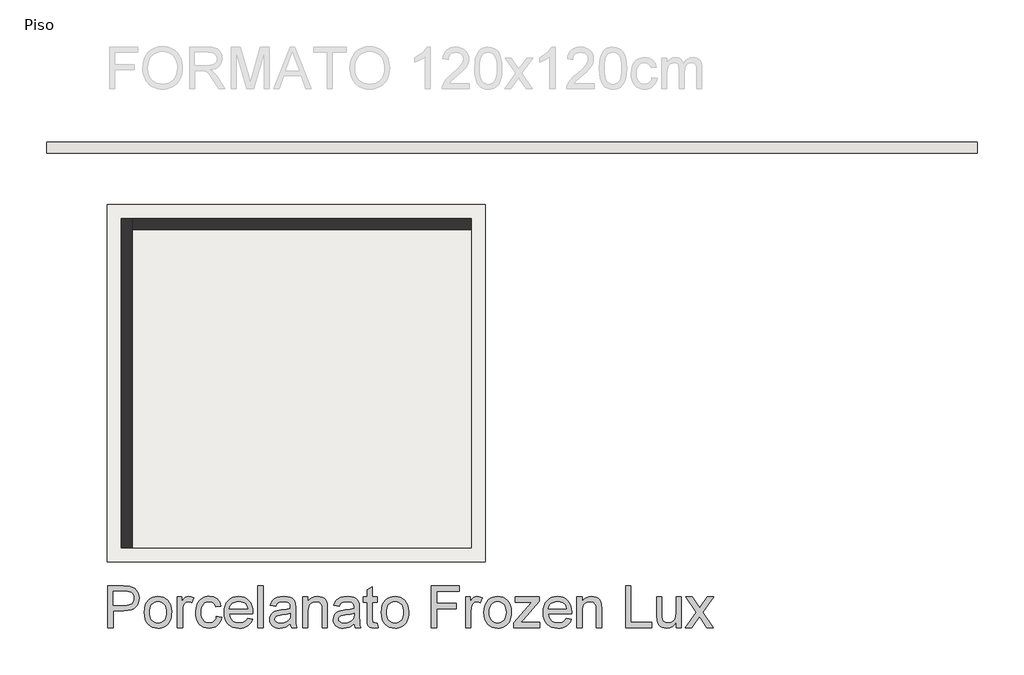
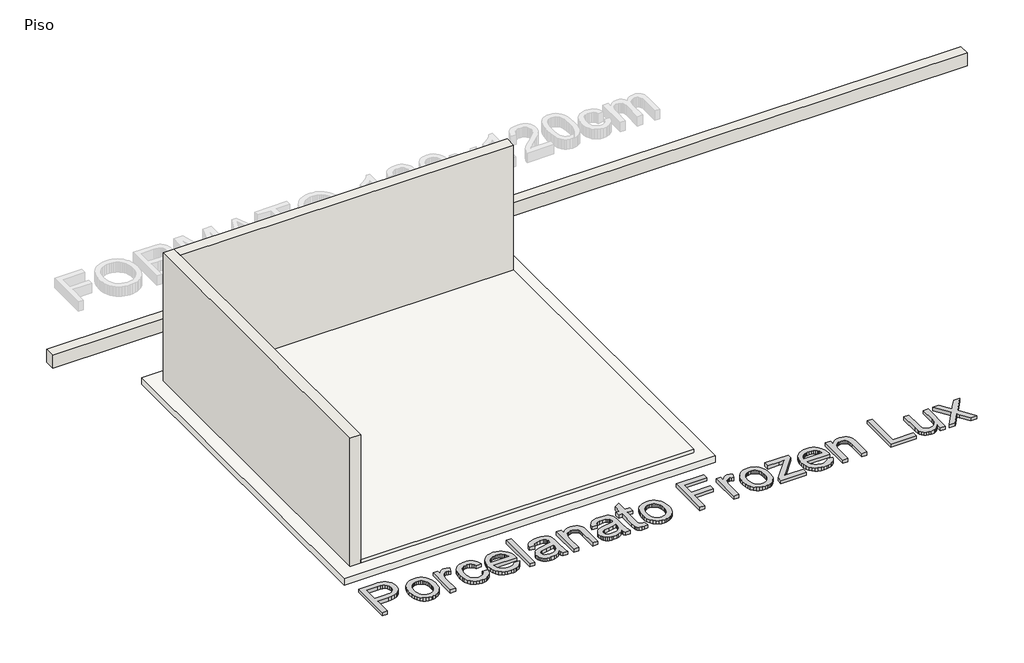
# One storey, part 1 of 2: 3 walls, 2 slabs, 1 proxy.
"""IFC4 building model written with IfcOpenShell, lengths in millimetres."""

from ifc_helpers import new_model, si_unit, frame, origin, origin_with_axes, place, context, project, spatial, polyline, outline, extrude, faceted_brep, element, save

model = new_model("IFC4")

# Units and contexts
model_context = context("Model", 3, world=origin())
ifc_project = project(units=[si_unit("LENGTHUNIT", "METRE", prefix="MILLI")], contexts=[model_context])

# Site, building, storey
site = spatial("IfcSite", under=ifc_project)
building = spatial("IfcBuilding", under=site)
storey = spatial("IfcBuildingStorey", under=building, Name="Piso", Elevation=0.0)

# Proxy
placement = place(None, origin())
element("IfcBuildingElementProxy", 1, Name="600mm Arial", ObjectType="600mm Arial", at=placement, inside=storey, context=model_context, shape_type="SweptSolid", body=[
    extrude(outline(polyline([(92577.3427351, -5117.7397351), (92577.3427351, -4515.0018742), (92800.7206826, -4515.0018742), (92852.7391967, -4516.436614), (92890.778195, -4520.7408334), (92930.9325148, -4531.4645935), (92963.986712, -4548.9205942), (92990.6029744, -4573.8997817), (93011.4434894, -4607.1931022), (93024.9079704, -4646.4645052), (93029.3961308, -4689.37794), (93026.3657028, -4726.3776716), (93017.274419, -4760.4159532), (93002.1222793, -4791.4927848), (92980.9092838, -4819.6081662), (92951.7868254, -4842.9134906), (92912.906297, -4859.5601509), (92864.2676987, -4869.5481471), (92805.8710305, -4872.8774791), (92652.6849677, -4872.8774791), (92652.6849677, -5117.7397351), (92577.3427351, -5117.7397351)]), holes=[polyline([(92652.6849677, -4797.5352465), (92810.2856144, -4797.5352465), (92846.521991, -4795.8062012), (92877.0929848, -4790.619065), (92901.9985958, -4781.9738381), (92921.2388242, -4769.8705205), (92935.595419, -4754.6310088), (92945.8501297, -4736.5771999), (92952.002956, -4715.7090938), (92954.0538981, -4692.0266903), (92949.2162499, -4658.1815468), (92934.7033052, -4629.6339039), (92912.3176858, -4608.1495954), (92883.8620135, -4595.4944548), (92854.7993358, -4591.6316938), (92808.5197809, -4590.3441069), (92652.6849677, -4590.3441069), (92652.6849677, -4797.5352465)])]), origin_with_axes(), (0.0, 0.0, 1.0), 50.0),
    extrude(outline(polyline([(93104.7383634, -4896.4219268), (93108.8126565, -4839.0967149), (93121.0355358, -4789.69936), (93141.4070012, -4748.2298621), (93169.9270529, -4714.6882212), (93198.6402426, -4693.249898), (93230.3332765, -4677.9368099), (93265.0061546, -4668.7489571), (93302.6588768, -4665.6863395), (93344.2249437, -4669.4157432), (93381.808688, -4680.6039544), (93415.4101098, -4699.250973), (93445.0292089, -4725.3567991), (93469.2036545, -4758.0385158), (93486.4711157, -4796.4132064), (93496.8315924, -4840.4808709), (93500.2850846, -4890.2415093), (93498.7583743, -4930.570573), (93494.1782435, -4966.3562941), (93486.5446921, -4997.5986726), (93475.8577201, -5024.2977084), (93462.2506848, -5047.3593109), (93445.8569434, -5067.6893897), (93426.6764959, -5085.2879446), (93404.7093422, -5100.1549758), (93380.8108081, -5111.9685863), (93355.8362192, -5120.4068796), (93329.7855754, -5125.4698556), (93302.6588768, -5127.1575142), (93260.4858046, -5123.4419061), (93222.5525723, -5112.2950816), (93188.8591801, -5093.7170409), (93159.4056279, -5067.7077838), (93135.4886996, -5034.7087688), (93118.4051795, -4995.1614543), (93108.1550674, -4949.0658403), (93104.7383634, -4896.4219268)]), holes=[polyline([(93180.080596, -4896.274774), (93182.2602968, -4932.8192517), (93188.7993993, -4964.4617018), (93199.6979034, -4991.2021244), (93214.9558091, -5013.0405193), (93233.5154558, -5030.0044778), (93254.3191826, -5042.121591), (93277.3669896, -5049.391859), (93302.6588768, -5051.8152816), (93327.8220052, -5049.3780634), (93350.7778417, -5042.0664087), (93371.5263863, -5029.8803176), (93390.0676388, -5012.8197901), (93405.3255446, -4990.7652645), (93416.2240487, -4963.5971792), (93422.7631512, -4931.3155341), (93424.942852, -4893.9203293), (93422.7493556, -4858.5346799), (93416.1688664, -4827.7199642), (93405.2013844, -4801.4761824), (93389.8469096, -4779.8033344), (93371.2366792, -4762.8393759), (93350.5019303, -4750.7222626), (93327.6426628, -4743.4519947), (93302.6588768, -4741.0285721), (93277.3669896, -4743.4427977), (93254.3191826, -4750.6854744), (93233.5154558, -4762.7566024), (93214.9558091, -4779.6561816), (93199.6979034, -4801.4301972), (93188.7993993, -4828.1246344), (93182.2602968, -4859.7394934), (93180.080596, -4896.274774)])]), origin_with_axes(), (0.0, 0.0, 1.0), 50.0),
    extrude(outline(polyline([(93585.0450963, -5117.7397351), (93585.0450963, -4675.1041185), (93650.9695498, -4675.1041185), (93650.9695498, -4740.5871137), (93675.3233379, -4702.6216918), (93697.7641396, -4680.2544665), (93720.2785177, -4669.3283712), (93744.853035, -4665.6863395), (93782.3769985, -4671.498875), (93820.4895732, -4688.9364816), (93795.3264447, -4756.4796159), (93768.8389411, -4744.891333), (93742.3514374, -4741.0285721), (93719.8554534, -4744.7441802), (93699.7507024, -4755.8910047), (93683.5087123, -4773.6229168), (93672.6010111, -4797.0937881), (93663.4407494, -4839.1794884), (93660.3873289, -4885.0911614), (93660.3873289, -5117.7397351), (93585.0450963, -5117.7397351)])), origin_with_axes(), (0.0, 0.0, 1.0), 50.0),
    extrude(outline(polyline([(94150.1118409, -4957.6374908), (94225.4540735, -4967.0552699), (94217.259502, -5002.6064662), (94204.4480116, -5034.0649753), (94187.019602, -5061.4307972), (94164.9742735, -5084.703932), (94139.2409279, -5103.2773742), (94110.7484674, -5116.5441187), (94079.4968919, -5124.5041653), (94045.4862014, -5127.1575142), (94003.2303558, -5123.4557016), (93965.3431088, -5112.3502639), (93931.8244605, -5093.841201), (93902.6744109, -5067.928513), (93879.0793794, -5035.0996434), (93862.2257855, -4995.842036), (93852.1136292, -4950.1556908), (93848.7429104, -4898.0406076), (93854.5002636, -4830.994114), (93861.6969552, -4800.8231919), (93871.7723233, -4772.8871529), (93884.7953459, -4747.747017), (93900.8350009, -4725.9638044), (93919.8912883, -4707.5375149), (93941.964208, -4692.4681487), (93966.0558802, -4680.7511072), (93991.1684249, -4672.3817918), (94017.3018421, -4667.3602025), (94044.4561319, -4665.6863395), (94077.8828096, -4667.9856019), (94108.1181111, -4674.8833893), (94135.1620363, -4686.3797017), (94159.0145852, -4702.474539), (94179.2710875, -4722.8000192), (94195.5268732, -4746.9882604), (94207.7819421, -4775.0392625), (94216.0362944, -4806.9530256), (94140.6940618, -4816.3708047), (94127.0272457, -4783.5005484), (94105.7452722, -4759.9377066), (94078.0253639, -4745.7558557), (94045.044743, -4741.0285721), (94019.4447547, -4743.3554257), (93996.355561, -4750.3359866), (93975.7771619, -4761.9702547), (93957.7095574, -4778.25823), (93942.9988761, -4799.5769916), (93932.4912466, -4826.3036186), (93926.1866689, -4858.4381108), (93924.085143, -4895.9804684), (93926.1406837, -4934.0884446), (93932.3073056, -4966.5954174), (93942.5850089, -4993.5013868), (93956.9737934, -5014.8063529), (93974.6827129, -5030.9977592), (93994.9208212, -5042.5630494), (94017.6881182, -5049.5022236), (94042.9846039, -5051.8152816), (94081.9984895, -5046.0395343), (94098.8704775, -5038.8198501), (94113.9858289, -5028.7122923), (94126.9214796, -5015.6064962), (94137.2543651, -4999.3920973), (94144.9844856, -4980.0690955), (94150.1118409, -4957.6374908)])), origin_with_axes(), (0.0, 0.0, 1.0), 50.0),
    extrude(outline(polyline([(94601.2823198, -4985.8908281), (94675.1530244, -4995.3086071), (94663.8268575, -5024.8955166), (94648.536762, -5050.969153), (94629.2827381, -5073.5295164), (94606.0647857, -5092.5766067), (94579.1220281, -5107.7057537), (94548.6935885, -5118.5122873), (94514.7794671, -5124.9962075), (94477.3796638, -5127.1575142), (94430.6310592, -5123.4281105), (94388.9776203, -5112.2398993), (94352.4193471, -5093.5928807), (94320.9562394, -5067.4870546), (94295.6551552, -5034.648988), (94277.5829522, -4995.8052478), (94266.7396304, -4950.9558341), (94263.1251898, -4900.1007468), (94266.7764186, -4847.5212126), (94277.730105, -4801.1772783), (94295.986249, -4761.0689438), (94321.5448506, -4727.1962091), (94352.9251848, -4700.2856411), (94388.6465265, -4681.0638069), (94428.7088758, -4669.5307063), (94473.1122326, -4665.6863395), (94516.0854482, -4669.5215093), (94554.9475825, -4681.0270187), (94589.6986354, -4700.2028677), (94620.3386071, -4727.0490563), (94645.3499842, -4760.8482146), (94663.2152536, -4800.8829727), (94673.9344153, -4847.1533306), (94677.5074692, -4899.6592884), (94677.0660108, -4919.9663745), (94338.4674224, -4919.9663745), (94342.8314226, -4950.0315306), (94351.5088391, -4976.3626844), (94364.4996721, -4998.9598359), (94381.8039214, -5017.8229852), (94402.465094, -5032.6946149), (94425.5266966, -5043.3172075), (94450.9887291, -5049.6907631), (94478.8511918, -5051.8152816), (94518.9503292, -5047.8789443), (94552.7218964, -5036.0699322), (94580.1658932, -5015.6524815), (94601.2823198, -4985.8908281)]), holes=[polyline([(94338.4674224, -4844.6241419), (94602.1652365, -4844.6241419), (94591.9749053, -4804.81931), (94583.2101167, -4789.1659311), (94571.9989129, -4776.3452436), (94551.4527035, -4760.8941998), (94528.0738027, -4749.85774), (94501.8622106, -4743.235864), (94472.817927, -4741.0285721), (94446.3258249, -4742.7898071), (94422.0318176, -4748.0735123), (94399.9359053, -4756.8796875), (94380.0380879, -4769.2083329), (94363.3408438, -4784.4892313), (94350.8466515, -4802.1521656), (94342.5555111, -4822.1971358), (94338.4674224, -4844.6241419)])]), origin_with_axes(), (0.0, 0.0, 1.0), 50.0),
    extrude(outline(polyline([(94752.8497018, -5117.7397351), (94752.8497018, -4515.0018742), (94828.1919344, -4515.0018742), (94828.1919344, -5117.7397351), (94752.8497018, -5117.7397351)])), origin_with_axes(), (0.0, 0.0, 1.0), 50.0),
    extrude(outline(polyline([(95223.7386556, -5061.2330607), (95187.7414024, -5092.0983601), (95150.6772913, -5112.2950816), (95111.700194, -5123.4419061), (95069.9639816, -5127.1575142), (95036.4177422, -5124.9226311), (95007.0009781, -5118.2179817), (94981.7136895, -5107.0435661), (94960.5558762, -5091.3993843), (94943.8494351, -5072.2787176), (94931.9162629, -5050.6748474), (94924.7563596, -5026.5877738), (94922.3697251, -5000.0174967), (94925.9749687, -4968.7843153), (94936.7906994, -4940.4206135), (94953.4741478, -4916.1404018), (94974.6825449, -4897.1576908), (94999.60655, -4882.810293), (95027.436823, -4872.4360208), (95092.6255125, -4861.1052553), (95169.6600023, -4849.1858787), (95223.2971972, -4835.2063628), (95223.7386556, -4818.4309439), (95218.5515195, -4784.8065295), (95212.0675993, -4772.353724), (95202.9901111, -4762.8071862), (95187.299944, -4753.2790425), (95168.1884743, -4746.4732256), (95119.7016274, -4741.0285721), (95074.8200239, -4744.6522097), (95043.476478, -4755.5231227), (95022.102534, -4775.6278737), (95007.1297368, -4806.9530256), (94931.7875042, -4797.5352465), (94944.8657091, -4756.3324631), (94964.381849, -4723.9588475), (94992.1569396, -4699.2003892), (95030.0119969, -4680.8430777), (95076.309946, -4669.475524), (95129.413712, -4665.6863395), (95180.3469743, -4669.0340656), (95220.7220232, -4679.0772441), (95251.1642583, -4694.1788), (95272.299079, -4712.7016584), (95286.315383, -4735.6023126), (95295.4020683, -4763.8372558), (95299.0808882, -4829.7617093), (95299.0808882, -4923.4980417), (95302.906861, -5054.3904556), (95308.5722437, -5086.745677), (95317.9164464, -5117.7397351), (95242.5742137, -5117.7397351), (95230.5076843, -5091.5465371), (95223.7386556, -5061.2330607)]), holes=[polyline([(95223.7386556, -4910.5485955), (95173.1180931, -4923.0933715), (95102.1904444, -4933.6515848), (95037.3696368, -4945.865267), (95020.5022474, -4954.2161883), (95008.0126536, -4965.7308947), (95000.2871317, -4979.5264695), (94997.7119578, -4994.7199959), (95003.3221582, -5017.1240095), (95020.1527595, -5035.481321), (95047.8358796, -5047.7317915), (95086.0036366, -5051.8152816), (95126.4706561, -5047.3087272), (95162.228786, -5033.7890638), (95191.2178872, -5013.8682538), (95211.3778206, -4990.1582592), (95220.317353, -4965.7308947), (95223.2971972, -4931.8857512), (95223.7386556, -4910.5485955)])]), origin_with_axes(), (0.0, 0.0, 1.0), 50.0),
    extrude(outline(polyline([(95402.676458, -5117.7397351), (95402.676458, -4675.1041185), (95478.0186907, -4675.1041185), (95478.0186907, -4736.9082937), (95504.1934946, -4705.7486887), (95535.6290111, -4683.491828), (95572.3252401, -4670.1377116), (95614.2821817, -4665.6863395), (95651.4198691, -4669.2731889), (95685.4305595, -4680.0337373), (95713.7942614, -4696.6252153), (95733.9909829, -4717.7048536), (95747.6945872, -4743.2174699), (95756.5789374, -4773.1078821), (95760.552063, -4845.9485171), (95760.552063, -5117.7397351), (95685.2098303, -5117.7397351), (95685.2098303, -4856.1020602), (95683.0393266, -4817.1433569), (95676.5278153, -4789.4418426), (95664.5164681, -4769.594609), (95645.8464569, -4754.1987475), (95621.9157331, -4744.3211159), (95594.1222483, -4741.0285721), (95571.2445868, -4742.8771791), (95549.994803, -4748.4230002), (95530.3728971, -4757.6660353), (95512.378869, -4770.6062845), (95497.346291, -4788.7152757), (95486.6087352, -4813.4645369), (95480.1662018, -4844.8540682), (95478.0186907, -4882.8838694), (95478.0186907, -5117.7397351), (95402.676458, -5117.7397351)])), origin_with_axes(), (0.0, 0.0, 1.0), 50.0),
    extrude(outline(polyline([(96146.6810051, -5061.2330607), (96110.6837519, -5092.0983601), (96073.6196408, -5112.2950816), (96034.6425435, -5123.4419061), (95992.9063311, -5127.1575142), (95959.3600917, -5124.9226311), (95929.9433276, -5118.2179817), (95904.656039, -5107.0435661), (95883.4982257, -5091.3993843), (95866.7917846, -5072.2787176), (95854.8586124, -5050.6748474), (95847.6987091, -5026.5877738), (95845.3120746, -5000.0174967), (95848.9173182, -4968.7843153), (95859.7330489, -4940.4206135), (95876.4164973, -4916.1404018), (95897.6248944, -4897.1576908), (95922.5488995, -4882.810293), (95950.3791725, -4872.4360208), (96015.567862, -4861.1052553), (96092.6023518, -4849.1858787), (96146.2395467, -4835.2063628), (96146.6810051, -4818.4309439), (96141.493869, -4784.8065295), (96135.0099488, -4772.353724), (96125.9324606, -4762.8071862), (96110.2422935, -4753.2790425), (96091.1308238, -4746.4732256), (96042.6439769, -4741.0285721), (95997.7623734, -4744.6522097), (95966.4188275, -4755.5231227), (95945.0448835, -4775.6278737), (95930.0720863, -4806.9530256), (95854.7298537, -4797.5352465), (95867.8080586, -4756.3324631), (95887.3241985, -4723.9588475), (95915.0992891, -4699.2003892), (95952.9543464, -4680.8430777), (95999.2522955, -4669.475524), (96052.3560615, -4665.6863395), (96103.2893238, -4669.0340656), (96143.6643727, -4679.0772441), (96174.1066078, -4694.1788), (96195.2414285, -4712.7016584), (96209.2577325, -4735.6023126), (96218.3444178, -4763.8372558), (96222.0232377, -4829.7617093), (96222.0232377, -4923.4980417), (96225.8492105, -5054.3904556), (96231.5145932, -5086.745677), (96240.8587959, -5117.7397351), (96165.5165632, -5117.7397351), (96153.4500338, -5091.5465371), (96146.6810051, -5061.2330607)]), holes=[polyline([(96146.6810051, -4910.5485955), (96096.0604426, -4923.0933715), (96025.1327939, -4933.6515848), (95960.3119863, -4945.865267), (95943.4445969, -4954.2161883), (95930.9550031, -4965.7308947), (95923.2294812, -4979.5264695), (95920.6543073, -4994.7199959), (95926.2645077, -5017.1240095), (95943.095109, -5035.481321), (95970.7782291, -5047.7317915), (96008.9459861, -5051.8152816), (96049.4130056, -5047.3087272), (96085.1711355, -5033.7890638), (96114.1602367, -5013.8682538), (96134.3201701, -4990.1582592), (96143.2597025, -4965.7308947), (96146.2395467, -4931.8857512), (96146.6810051, -4910.5485955)])]), origin_with_axes(), (0.0, 0.0, 1.0), 50.0),
    extrude(outline(polyline([(96485.7210518, -5054.9054904), (96495.1388309, -5119.9470271), (96438.7793093, -5127.1575142), (96402.6165091, -5124.0305173), (96375.6507589, -5114.6495264), (96356.5944715, -5100.191764), (96344.1600601, -5081.8344524), (96337.317455, -5050.3069654), (96335.0365866, -4996.3386767), (96335.0365866, -4750.4463512), (96278.5299122, -4750.4463512), (96278.5299122, -4675.1041185), (96335.0365866, -4675.1041185), (96335.0365866, -4567.5354232), (96410.3788192, -4523.2424309), (96410.3788192, -4675.1041185), (96485.7210518, -4675.1041185), (96485.7210518, -4750.4463512), (96410.3788192, -4750.4463512), (96410.3788192, -4994.1313848), (96414.3519448, -5032.9797234), (96427.2278146, -5046.7385101), (96438.0987276, -5050.5460887), (96452.9059779, -5051.8152816), (96485.7210518, -5054.9054904)])), origin_with_axes(), (0.0, 0.0, 1.0), 50.0),
    extrude(outline(polyline([(96542.2277263, -4896.4219268), (96546.3020194, -4839.0967149), (96558.5248987, -4789.69936), (96578.8963642, -4748.2298621), (96607.4164159, -4714.6882212), (96636.1296056, -4693.249898), (96667.8226395, -4677.9368099), (96702.4955175, -4668.7489571), (96740.1482397, -4665.6863395), (96781.7143066, -4669.4157432), (96819.298051, -4680.6039544), (96852.8994727, -4699.250973), (96882.5185718, -4725.3567991), (96906.6930175, -4758.0385158), (96923.9604786, -4796.4132064), (96934.3209553, -4840.4808709), (96937.7744475, -4890.2415093), (96936.2477372, -4930.570573), (96931.6676064, -4966.3562941), (96924.034055, -4997.5986726), (96913.347083, -5024.2977084), (96899.7400477, -5047.3593109), (96883.3463063, -5067.6893897), (96864.1658588, -5085.2879446), (96842.1987052, -5100.1549758), (96818.3001711, -5111.9685863), (96793.3255821, -5120.4068796), (96767.2749383, -5125.4698556), (96740.1482397, -5127.1575142), (96697.9751675, -5123.4419061), (96660.0419353, -5112.2950816), (96626.348543, -5093.7170409), (96596.8949908, -5067.7077838), (96572.9780626, -5034.7087688), (96555.8945424, -4995.1614543), (96545.6444303, -4949.0658403), (96542.2277263, -4896.4219268)]), holes=[polyline([(96617.5699589, -4896.274774), (96619.7496597, -4932.8192517), (96626.2887622, -4964.4617018), (96637.1872663, -4991.2021244), (96652.4451721, -5013.0405193), (96671.0048187, -5030.0044778), (96691.8085455, -5042.121591), (96714.8563525, -5049.391859), (96740.1482397, -5051.8152816), (96765.3113682, -5049.3780634), (96788.2672047, -5042.0664087), (96809.0157492, -5029.8803176), (96827.5570018, -5012.8197901), (96842.8149075, -4990.7652645), (96853.7134116, -4963.5971792), (96860.2525141, -4931.3155341), (96862.4322149, -4893.9203293), (96860.2387185, -4858.5346799), (96853.6582293, -4827.7199642), (96842.6907473, -4801.4761824), (96827.3362726, -4779.8033344), (96808.7260421, -4762.8393759), (96787.9912932, -4750.7222626), (96765.1320257, -4743.4519947), (96740.1482397, -4741.0285721), (96714.8563525, -4743.4427977), (96691.8085455, -4750.6854744), (96671.0048187, -4762.7566024), (96652.4451721, -4779.6561816), (96637.1872663, -4801.4301972), (96626.2887622, -4828.1246344), (96619.7496597, -4859.7394934), (96617.5699589, -4896.274774)])]), origin_with_axes(), (0.0, 0.0, 1.0), 50.0),
    extrude(outline(polyline([(97267.3967152, -5117.7397351), (97267.3967152, -4515.0018742), (97672.3612155, -4515.0018742), (97672.3612155, -4590.3441069), (97342.7389478, -4590.3441069), (97342.7389478, -4769.2819093), (97625.2723201, -4769.2819093), (97625.2723201, -4844.6241419), (97342.7389478, -4844.6241419), (97342.7389478, -5117.7397351), (97267.3967152, -5117.7397351)])), origin_with_axes(), (0.0, 0.0, 1.0), 50.0),
    extrude(outline(polyline([(97766.5390063, -5117.7397351), (97766.5390063, -4675.1041185), (97832.4634598, -4675.1041185), (97832.4634598, -4740.5871137), (97856.8172479, -4702.6216918), (97879.2580496, -4680.2544665), (97901.7724277, -4669.3283712), (97926.346945, -4665.6863395), (97963.8709085, -4671.498875), (98001.9834832, -4688.9364816), (97976.8203547, -4756.4796159), (97950.332851, -4744.891333), (97923.8453474, -4741.0285721), (97901.3493634, -4744.7441802), (97881.2446123, -4755.8910047), (97865.0026223, -4773.6229168), (97854.0949211, -4797.0937881), (97844.9346594, -4839.1794884), (97841.8812389, -4885.0911614), (97841.8812389, -5117.7397351), (97766.5390063, -5117.7397351)])), origin_with_axes(), (0.0, 0.0, 1.0), 50.0),
    extrude(outline(polyline([(98030.2368204, -4896.4219268), (98034.3111135, -4839.0967149), (98046.5339928, -4789.69936), (98066.9054583, -4748.2298621), (98095.4255099, -4714.6882212), (98124.1386997, -4693.249898), (98155.8317335, -4677.9368099), (98190.5046116, -4668.7489571), (98228.1573338, -4665.6863395), (98269.7234007, -4669.4157432), (98307.3071451, -4680.6039544), (98340.9085668, -4699.250973), (98370.5276659, -4725.3567991), (98394.7021115, -4758.0385158), (98411.9695727, -4796.4132064), (98422.3300494, -4840.4808709), (98425.7835416, -4890.2415093), (98424.2568313, -4930.570573), (98419.6767005, -4966.3562941), (98412.0431491, -4997.5986726), (98401.3561771, -5024.2977084), (98387.7491418, -5047.3593109), (98371.3554004, -5067.6893897), (98352.1749529, -5085.2879446), (98330.2077993, -5100.1549758), (98306.3092652, -5111.9685863), (98281.3346762, -5120.4068796), (98255.2840324, -5125.4698556), (98228.1573338, -5127.1575142), (98185.9842616, -5123.4419061), (98148.0510294, -5112.2950816), (98114.3576371, -5093.7170409), (98084.9040849, -5067.7077838), (98060.9871567, -5034.7087688), (98043.9036365, -4995.1614543), (98033.6535244, -4949.0658403), (98030.2368204, -4896.4219268)]), holes=[polyline([(98105.579053, -4896.274774), (98107.7587538, -4932.8192517), (98114.2978563, -4964.4617018), (98125.1963604, -4991.2021244), (98140.4542662, -5013.0405193), (98159.0139128, -5030.0044778), (98179.8176396, -5042.121591), (98202.8654466, -5049.391859), (98228.1573338, -5051.8152816), (98253.3204623, -5049.3780634), (98276.2762988, -5042.0664087), (98297.0248433, -5029.8803176), (98315.5660959, -5012.8197901), (98330.8240016, -4990.7652645), (98341.7225057, -4963.5971792), (98348.2616082, -4931.3155341), (98350.441309, -4893.9203293), (98348.2478126, -4858.5346799), (98341.6673234, -4827.7199642), (98330.6998414, -4801.4761824), (98315.3453667, -4779.8033344), (98296.7351362, -4762.8393759), (98276.0003873, -4750.7222626), (98253.1411198, -4743.4519947), (98228.1573338, -4741.0285721), (98202.8654466, -4743.4427977), (98179.8176396, -4750.6854744), (98159.0139128, -4762.7566024), (98140.4542662, -4779.6561816), (98125.1963604, -4801.4301972), (98114.2978563, -4828.1246344), (98107.7587538, -4859.7394934), (98105.579053, -4896.274774)])]), origin_with_axes(), (0.0, 0.0, 1.0), 50.0),
    extrude(outline(polyline([(98463.4546579, -5117.7397351), (98463.4546579, -5046.8120865), (98723.4736521, -4750.4463512), (98646.5127387, -4750.4463512), (98482.2902161, -4750.4463512), (98482.2902161, -4675.1041185), (98830.7480419, -4675.1041185), (98830.7480419, -4739.1155857), (98600.1596073, -5002.0776359), (98564.8429358, -5042.3975025), (98651.9573922, -5042.3975025), (98840.165821, -5042.3975025), (98840.165821, -5117.7397351), (98463.4546579, -5117.7397351)])), origin_with_axes(), (0.0, 0.0, 1.0), 50.0),
    extrude(outline(polyline([(99225.4118463, -4985.8908281), (99299.282551, -4995.3086071), (99287.956384, -5024.8955166), (99272.6662886, -5050.969153), (99253.4122647, -5073.5295164), (99230.1943123, -5092.5766067), (99203.2515546, -5107.7057537), (99172.8231151, -5118.5122873), (99138.9089937, -5124.9962075), (99101.5091904, -5127.1575142), (99054.7605858, -5123.4281105), (99013.1071469, -5112.2398993), (98976.5488736, -5093.5928807), (98945.085766, -5067.4870546), (98919.7846818, -5034.648988), (98901.7124788, -4995.8052478), (98890.869157, -4950.9558341), (98887.2547164, -4900.1007468), (98890.9059452, -4847.5212126), (98901.8596316, -4801.1772783), (98920.1157756, -4761.0689438), (98945.6743772, -4727.1962091), (98977.0547114, -4700.2856411), (99012.7760531, -4681.0638069), (99052.8384024, -4669.5307063), (99097.2417592, -4665.6863395), (99140.2149748, -4669.5215093), (99179.077109, -4681.0270187), (99213.828162, -4700.2028677), (99244.4681337, -4727.0490563), (99269.4795108, -4760.8482146), (99287.3447802, -4800.8829727), (99298.0639418, -4847.1533306), (99301.6369957, -4899.6592884), (99301.1955373, -4919.9663745), (98962.596949, -4919.9663745), (98966.9609491, -4950.0315306), (98975.6383657, -4976.3626844), (98988.6291987, -4998.9598359), (99005.933448, -5017.8229852), (99026.5946206, -5032.6946149), (99049.6562231, -5043.3172075), (99075.1182557, -5049.6907631), (99102.9807183, -5051.8152816), (99143.0798558, -5047.8789443), (99176.851423, -5036.0699322), (99204.2954198, -5015.6524815), (99225.4118463, -4985.8908281)]), holes=[polyline([(98962.596949, -4844.6241419), (99226.2947631, -4844.6241419), (99216.1044318, -4804.81931), (99207.3396433, -4789.1659311), (99196.1284395, -4776.3452436), (99175.5822301, -4760.8941998), (99152.2033293, -4749.85774), (99125.9917371, -4743.235864), (99096.9474536, -4741.0285721), (99070.4553514, -4742.7898071), (99046.1613442, -4748.0735123), (99024.0654318, -4756.8796875), (99004.1676144, -4769.2083329), (98987.4703704, -4784.4892313), (98974.9761781, -4802.1521656), (98966.6850376, -4822.1971358), (98962.596949, -4844.6241419)])]), origin_with_axes(), (0.0, 0.0, 1.0), 50.0),
    extrude(outline(polyline([(99376.9792283, -5117.7397351), (99376.9792283, -4675.1041185), (99452.321461, -4675.1041185), (99452.321461, -4736.9082937), (99478.4962649, -4705.7486887), (99509.9317814, -4683.491828), (99546.6280104, -4670.1377116), (99588.584952, -4665.6863395), (99625.7226394, -4669.2731889), (99659.7333298, -4680.0337373), (99688.0970317, -4696.6252153), (99708.2937532, -4717.7048536), (99721.9973575, -4743.2174699), (99730.8817077, -4773.1078821), (99734.8548332, -4845.9485171), (99734.8548332, -5117.7397351), (99659.5126006, -5117.7397351), (99659.5126006, -4856.1020602), (99657.3420969, -4817.1433569), (99650.8305855, -4789.4418426), (99638.8192384, -4769.594609), (99620.1492272, -4754.1987475), (99596.2185034, -4744.3211159), (99568.4250186, -4741.0285721), (99545.5473571, -4742.8771791), (99524.2975733, -4748.4230002), (99504.6756674, -4757.6660353), (99486.6816393, -4770.6062845), (99471.6490613, -4788.7152757), (99460.9115055, -4813.4645369), (99454.4689721, -4844.8540682), (99452.321461, -4882.8838694), (99452.321461, -5117.7397351), (99376.9792283, -5117.7397351)])), origin_with_axes(), (0.0, 0.0, 1.0), 50.0),
    extrude(outline(polyline([(100083.3126591, -5117.7397351), (100083.3126591, -4515.0018742), (100158.6548917, -4515.0018742), (100158.6548917, -5042.3975025), (100460.0238221, -5042.3975025), (100460.0238221, -5117.7397351), (100083.3126591, -5117.7397351)])), origin_with_axes(), (0.0, 0.0, 1.0), 50.0),
    extrude(outline(polyline([(100817.899427, -5117.7397351), (100817.899427, -5041.6617385), (100790.6393712, -5079.0661404), (100758.891155, -5105.7835703), (100722.6547785, -5121.8140282), (100681.9302416, -5127.1575142), (100645.2340126, -5123.4051179), (100611.0761694, -5112.1479288), (100582.4181619, -5095.225357), (100562.2214404, -5074.4768125), (100548.6282007, -5049.2768958), (100539.7806387, -5019.0002076), (100535.3660548, -4948.9554757), (100535.3660548, -4675.1041185), (100610.7082874, -4675.1041185), (100610.7082874, -4913.4916514), (100611.8487215, -4961.169158), (100615.2700241, -4990.305412), (100626.2513017, -5015.928393), (100645.0684657, -5035.4077446), (100670.4707175, -5047.7133974), (100701.2072582, -5051.8152816), (100733.7096325, -5047.6214269), (100764.1150794, -5035.0398626), (100789.1862373, -5015.2294172), (100805.6857448, -4989.3489188), (100814.8460065, -4953.9034886), (100817.899427, -4905.3982475), (100817.899427, -4675.1041185), (100893.2416597, -4675.1041185), (100893.2416597, -5117.7397351), (100817.899427, -5117.7397351)])), origin_with_axes(), (0.0, 0.0, 1.0), 50.0),
    extrude(outline(polyline([(100949.7483341, -5117.7397351), (101110.7334952, -4895.2447045), (100959.1661132, -4675.1041185), (101049.8122368, -4675.1041185), (101122.9471774, -4781.0541332), (101157.0866266, -4831.0860845), (101186.664339, -4790.1776066), (101269.9528227, -4675.1041185), (101360.5989463, -4675.1041185), (101201.3796188, -4895.2447045), (101354.7128344, -5117.7397351), (101264.0667108, -5117.7397351), (101171.8019064, -4983.9778417), (101154.8793346, -4959.5504772), (101040.3944577, -5117.7397351), (100949.7483341, -5117.7397351)])), origin_with_axes(), (0.0, 0.0, 1.0), 50.0),
])

# Slabs
element("IfcSlab", 2, ObjectType="5cm - Porcelanato Frozen Lux  - Polido 120x120", at=placement, inside=storey, context=model_context, shape_type="SweptSolid", body=[
    extrude(outline(polyline([(97847.032962, 658.3938961), (97847.032962, -3962.2061039), (92926.432962, -3962.2061039), (92926.432962, 658.3938961), (97847.032962, 658.3938961)])), origin_with_axes(), (0.0, 0.0, 1.0), 50.0),
])
element("IfcSlab", 3, ObjectType="CO02 - Concreto Estrutural Simples", at=placement, inside=storey, context=model_context, shape_type="SweptSolid", body=[
    extrude(outline(polyline([(98047.032962, 1017.1938961), (98047.032962, -4162.2061039), (92567.632962, -4162.2061039), (92567.632962, 1017.1938961), (98047.032962, 1017.1938961)])), frame((0.0, 0.0, -100.0), z_axis=(0.0, 0.0, 1.0), x_axis=(1.0, 0.0, 0.0)), (0.0, 0.0, 1.0), 100.0),
])

# Walls
element("IfcWall", 4, ObjectType="CO01 - Bloco de Concreto 14cm / Pintura Branca Simples", at=placement, inside=storey, context=model_context, shape_type="SweptSolid", body=[
    extrude(outline(polyline([(105186.699165, 1765.7486968), (91686.699165, 1765.7486968), (91686.699165, 1924.5486968), (105186.699165, 1924.5486968), (105186.699165, 1765.7486968)])), origin_with_axes(), (0.0, 0.0, 1.0), 200.0),
])
element("IfcWall", 5, ObjectType="CO01 - Bloco de Concreto 14cm / Pintura Branca Simples", at=placement, inside=storey, context=model_context, shape_type="Brep", body=[
    faceted_brep([(92926.432962, -3962.2061039, 0.0), (92926.432962, 658.3938961, 0.0), (92926.432962, 817.1938961, 0.0), (92926.432962, 817.1938961, 2000.0), (92926.432962, 658.3938961, 2000.0), (92926.432962, -3962.2061039, 2000.0), (92767.632962, -3962.2061039, 0.0), (92767.632962, -3962.2061039, 2000.0), (92767.632962, 817.1938961, 2000.0), (92767.632962, 817.1938961, 0.0)], [[[0, 1, 2, 3, 4, 5]], [[6, 7, 8, 9]], [[2, 1, 0, 6, 9]], [[5, 4, 3, 8, 7]], [[0, 5, 7, 6]], [[3, 2, 9, 8]]]),
])
element("IfcWall", 6, ObjectType="CO01 - Bloco de Concreto 14cm / Pintura Branca Simples", at=placement, inside=storey, context=model_context, shape_type="SweptSolid", body=[
    extrude(outline(polyline([(97847.032962, 658.3938961), (92926.432962, 658.3938961), (92926.432962, 817.1938961), (97847.032962, 817.1938961), (97847.032962, 658.3938961)])), origin_with_axes(), (0.0, 0.0, 1.0), 2000.0),
])

save(model, "model.ifc")
